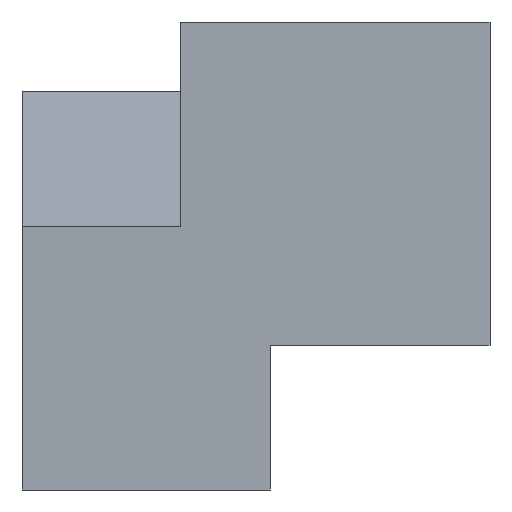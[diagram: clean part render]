
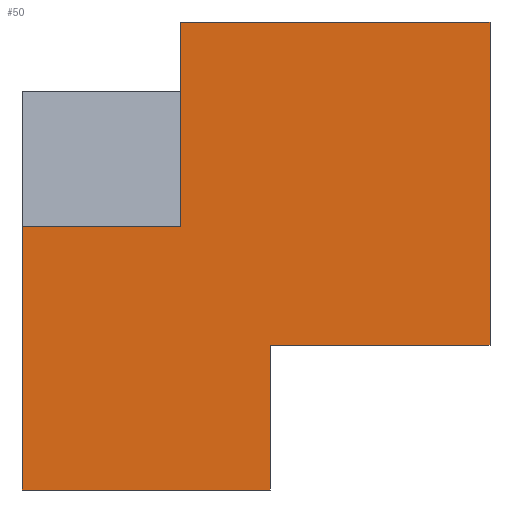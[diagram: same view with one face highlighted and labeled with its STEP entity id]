
A CAD part, left-side view. The second image highlights one B-rep face of the part: STEP entity #50.
In plain terms, the highlighted planar face has unit normal (-1, 0, 0).
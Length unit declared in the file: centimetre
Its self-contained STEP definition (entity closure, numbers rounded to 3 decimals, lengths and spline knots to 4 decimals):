
#1 = VECTOR ( 'NONE', #361, 100. ) ;
#2 = DIRECTION ( 'NONE',  ( 0., 1., 0. ) ) ;
#9 = VECTOR ( 'NONE', #121, 100. ) ;
#14 = ORIENTED_EDGE ( 'NONE', *, *, #261, .T. ) ;
#15 = AXIS2_PLACEMENT_3D ( 'NONE', #177, #82, #173 ) ;
#18 = EDGE_CURVE ( 'NONE', #226, #374, #85, .T. ) ;
#19 = VERTEX_POINT ( 'NONE', #245 ) ;
#24 = EDGE_CURVE ( 'NONE', #294, #316, #398, .T. ) ;
#27 = DIRECTION ( 'NONE',  ( 0., 1., 0. ) ) ;
#31 = EDGE_CURVE ( 'NONE', #19, #226, #367, .T. ) ;
#39 = ORIENTED_EDGE ( 'NONE', *, *, #31, .F. ) ;
#45 = VECTOR ( 'NONE', #180, 100. ) ;
#50 = ADVANCED_FACE ( 'NONE', ( #365 ), #359, .F. ) ;
#61 = LINE ( 'NONE', #334, #93 ) ;
#64 = VECTOR ( 'NONE', #381, 100. ) ;
#65 = CARTESIAN_POINT ( 'NONE',  ( 0., 469.5992, 309.7282 ) ) ;
#75 = VERTEX_POINT ( 'NONE', #270 ) ;
#82 = DIRECTION ( 'NONE',  ( 1., 0., 0. ) ) ;
#85 = LINE ( 'NONE', #304, #174 ) ;
#93 = VECTOR ( 'NONE', #27, 100. ) ;
#95 = LINE ( 'NONE', #281, #309 ) ;
#99 = CARTESIAN_POINT ( 'NONE',  ( 0., 1000., 1000. ) ) ;
#120 = EDGE_CURVE ( 'NONE', #313, #75, #61, .T. ) ;
#121 = DIRECTION ( 'NONE',  ( 0., 0., 1. ) ) ;
#137 = ORIENTED_EDGE ( 'NONE', *, *, #366, .T. ) ;
#144 = CARTESIAN_POINT ( 'NONE',  ( 0., 469.5992, 0. ) ) ;
#152 = CARTESIAN_POINT ( 'NONE',  ( 0., 1000., 1000. ) ) ;
#173 = DIRECTION ( 'NONE',  ( 0., 0., -1. ) ) ;
#174 = VECTOR ( 'NONE', #326, 100. ) ;
#177 = CARTESIAN_POINT ( 'NONE',  ( 0., 1000., 1000. ) ) ;
#180 = DIRECTION ( 'NONE',  ( 0., 0., -1. ) ) ;
#181 = CARTESIAN_POINT ( 'NONE',  ( 0., 1000., 0. ) ) ;
#222 = LINE ( 'NONE', #99, #45 ) ;
#226 = VERTEX_POINT ( 'NONE', #372 ) ;
#230 = CARTESIAN_POINT ( 'NONE',  ( 0., 0., 309.7282 ) ) ;
#232 = EDGE_CURVE ( 'NONE', #313, #19, #375, .T. ) ;
#239 = DIRECTION ( 'NONE',  ( 0., 0., -1. ) ) ;
#245 = CARTESIAN_POINT ( 'NONE',  ( 0., 661.5776, 1000. ) ) ;
#259 = ORIENTED_EDGE ( 'NONE', *, *, #18, .F. ) ;
#261 = EDGE_CURVE ( 'NONE', #75, #325, #222, .T. ) ;
#270 = CARTESIAN_POINT ( 'NONE',  ( 0., 1000., 562.071 ) ) ;
#279 = CARTESIAN_POINT ( 'NONE',  ( 0., 661.5776, 562.071 ) ) ;
#281 = CARTESIAN_POINT ( 'NONE',  ( 0., 0., 309.7282 ) ) ;
#292 = ORIENTED_EDGE ( 'NONE', *, *, #24, .F. ) ;
#294 = VERTEX_POINT ( 'NONE', #65 ) ;
#304 = CARTESIAN_POINT ( 'NONE',  ( 0., 0., 1000. ) ) ;
#309 = VECTOR ( 'NONE', #2, 100. ) ;
#313 = VERTEX_POINT ( 'NONE', #279 ) ;
#316 = VERTEX_POINT ( 'NONE', #402 ) ;
#323 = ORIENTED_EDGE ( 'NONE', *, *, #232, .F. ) ;
#325 = VERTEX_POINT ( 'NONE', #181 ) ;
#326 = DIRECTION ( 'NONE',  ( 0., 0., -1. ) ) ;
#334 = CARTESIAN_POINT ( 'NONE',  ( 0., 661.5776, 562.071 ) ) ;
#340 = EDGE_CURVE ( 'NONE', #374, #294, #95, .T. ) ;
#354 = LINE ( 'NONE', #384, #64 ) ;
#355 = ORIENTED_EDGE ( 'NONE', *, *, #340, .F. ) ;
#356 = VECTOR ( 'NONE', #239, 100. ) ;
#359 = PLANE ( 'NONE',  #15 ) ;
#361 = DIRECTION ( 'NONE',  ( 0., -1., 0. ) ) ;
#365 = FACE_OUTER_BOUND ( 'NONE', #369, .T. ) ;
#366 = EDGE_CURVE ( 'NONE', #325, #316, #354, .T. ) ;
#367 = LINE ( 'NONE', #152, #1 ) ;
#369 = EDGE_LOOP ( 'NONE', ( #137, #292, #355, #259, #39, #323, #385, #14 ) ) ;
#371 = CARTESIAN_POINT ( 'NONE',  ( 0., 661.5776, 562.071 ) ) ;
#372 = CARTESIAN_POINT ( 'NONE',  ( 0., 0., 1000. ) ) ;
#374 = VERTEX_POINT ( 'NONE', #230 ) ;
#375 = LINE ( 'NONE', #371, #9 ) ;
#381 = DIRECTION ( 'NONE',  ( 0., -1., 0. ) ) ;
#384 = CARTESIAN_POINT ( 'NONE',  ( 0., 1000., 0. ) ) ;
#385 = ORIENTED_EDGE ( 'NONE', *, *, #120, .T. ) ;
#398 = LINE ( 'NONE', #144, #356 ) ;
#402 = CARTESIAN_POINT ( 'NONE',  ( 0., 469.5992, 0. ) ) ;
